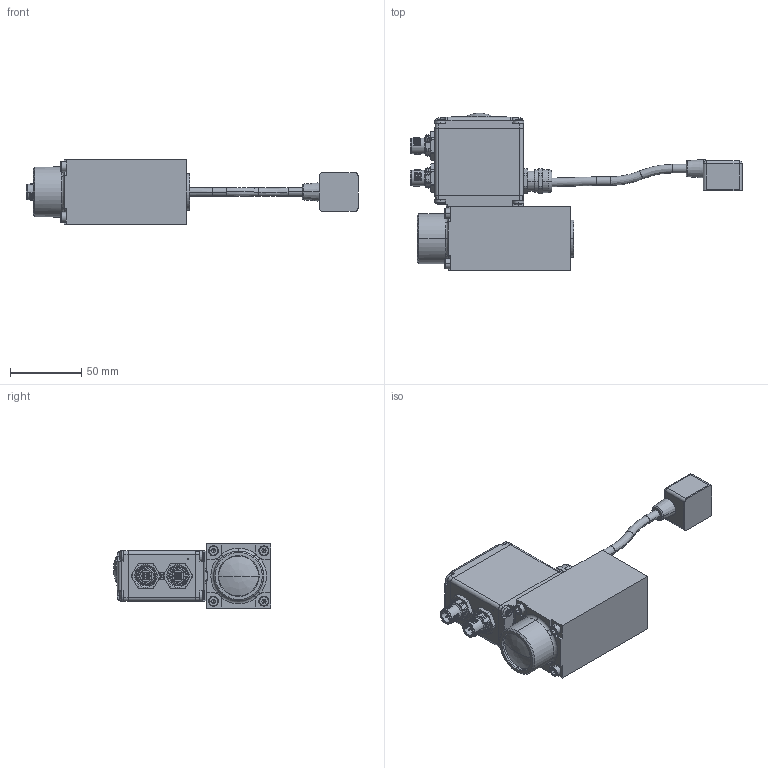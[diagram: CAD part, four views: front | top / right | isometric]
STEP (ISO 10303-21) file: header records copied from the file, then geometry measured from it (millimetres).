
FILE_DESCRIPTION (( 'STEP AP203' ), '1' );
FILE_NAME ('PI45LV-P2-24C_110mm.step', '2013-07-29T06:47:41', ( 'Wandfluh AG' ), ( 'Wandfluh AG' ), 'SwSTEP 2.0', 'SolidWorks 2012', '' );
FILE_SCHEMA (( 'CONFIG_CONTROL_DESIGN' ));
Products named in the file (1): PI45LV-P2-24C_110mm
Bounding box: 232.65 x 110.39 x 45 mm (x, y, z)
Volume: 270932 mm3; surface area: 85160.1 mm2
Topology: 32 solids, 32 shells, 3417 faces, 9121 edges, 5857 vertices
Faces by surface type: plane 1566, cylinder 1130, cone 243, torus 236, bspline 210, sphere 32
Entity records: 133868 total; most frequent: CARTESIAN_POINT 50264, ORIENTED_EDGE 18126, DIRECTION 16507, EDGE_CURVE 9063, VERTEX_POINT 5857, AXIS2_PLACEMENT_3D 5573, VECTOR 5361, LINE 5361
